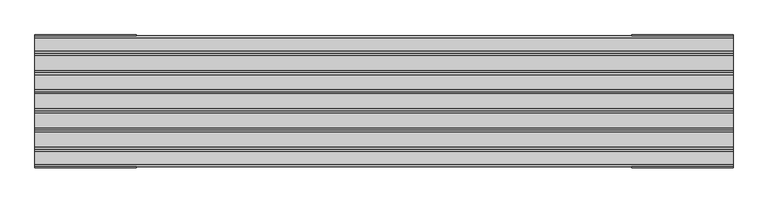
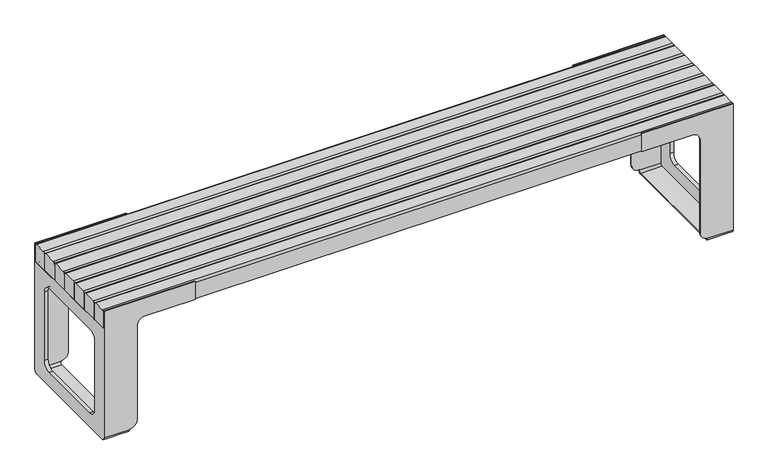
"""IFC4 building model written with IfcOpenShell, lengths in millimetres: furniture geometry, Roros Produkter - Nobel - Bench - 32682 : Roros Produkter - Nobel - Bench - 32682."""

from ifc_helpers import new_model, si_unit, point, frame, frame_2d, origin, place, context, project, spatial, polyline, circle_curve, trimmed, segment, composite_curve, outline, extrude, source, transform, mapped, element, save
from ifc_brep_helpers import plane_surface, cylinder_surface, revolved_surface, advanced_brep


def furniture_3f1389cd(model_context):
    return source(origin(), model_context, "Body", "SolidModel", [
        advanced_brep(
        [(920.0000032, 190.4999943, 10.0), (920.0000032, 180.4999943, 0.0), (920.0000032, -180.5000057, 0.0), (920.0000032, -190.5000057, 10.0), (920.0000032, -190.5000057, 11.2), (920.0000032, -187.5000057, 11.2), (920.0000032, -187.5000057, 9.6519473), (920.0000032, -180.5000057, 2.6519473), (920.0000032, 180.4999958, 2.6519473), (920.0000032, 187.4999958, 9.6519473), (920.0000032, 187.4999958, 11.2), (920.0000032, 190.4999943, 11.2), (920.0000032, 180.4999958, 372.0000043), (920.0000032, -180.5000057, 372.0000043), (920.0000032, -187.5000057, 365.0000043), (920.0000032, -187.4999958, 375.0000029), (920.0000032, 187.4999958, 375.0000029), (920.0000032, 187.4999958, 365.0000043), (1000.0000075, -190.5000057, 10.0), (1000.0000075, -180.5000057, 0.0), (1000.0000075, 180.4999943, 0.0), (1000.0000075, 190.4999943, 10.0), (1000.0000075, 190.5000057, 435.0000106), (1000.0000075, 187.4999958, 435.0000106), (1000.0000075, 187.4999958, 375.0000029), (1000.0000075, -187.4999958, 375.0000029), (1000.0000075, -187.4999958, 435.0000106), (1000.0000075, -190.5000057, 435.0000106), (1000.0000075, 112.5000317, 327.8461224), (1000.0000075, 137.5000317, 302.8461224), (1000.0000075, 137.5000317, 72.0000018), (1000.0000075, 112.5000317, 47.0000018), (1000.0000075, -112.4999704, 47.0000018), (1000.0000075, -137.4999704, 72.0000018), (1000.0000075, -137.4999704, 302.8461224), (1000.0000075, -112.4999704, 327.8461224), (895.000003, 190.4999943, 36.2000001), (895.000003, 190.4999943, 350.0000029), (870.000003, 190.4999943, 375.0000029), (710.0000125, 190.4999943, 375.0000029), (710.0000125, 190.4999943, 435.0000106), (710.0000125, -190.5000057, 435.0000106), (710.0000125, -190.5000057, 375.0000029), (870.000003, -190.5000057, 375.0000029), (895.000003, -190.5000057, 350.0000029), (895.000003, -190.5000057, 36.2000001), (895.000003, -187.4999958, 36.2000001), (895.000003, -187.4999958, 350.0000029), (870.000003, -187.4999958, 375.0000029), (710.0000125, -187.4999958, 375.0000029), (710.0000125, -187.4999958, 435.0000106), (895.000003, 187.4999958, 36.2000001), (895.000003, 187.4999958, 350.0000029), (870.000003, 187.4999958, 375.0000029), (710.0000125, 187.4999958, 375.0000029), (710.0000125, 187.4999958, 435.0000106), (989.0000078, 187.4999958, 365.0000043), (989.0000078, 187.4999958, 9.6519473), (989.0000078, 180.4999958, 2.6519473), (989.0000078, -180.5000057, 2.6519473), (989.0000078, -187.5000057, 9.6519473), (989.0000078, -187.5000057, 365.0000043), (989.0000078, -180.5000057, 372.0000043), (989.0000078, 180.4999958, 372.0000043), (989.0000078, 137.5000317, 302.8461224), (989.0000078, 112.5000317, 327.8461224), (989.0000078, -112.4999704, 327.8461224), (989.0000078, -137.4999704, 302.8461224), (989.0000078, -137.4999704, 72.0000018), (989.0000078, -112.4999704, 47.0000018), (989.0000078, 112.5000317, 47.0000018), (989.0000078, 137.5000317, 72.0000018)],
        [
            (0, 1, circle_curve(frame((920.0000032, 180.4999943, 10.0), z_axis=(-1.0, 0.0, 0.0), x_axis=(0.0, -1.0, 0.0)), 10.0)),
            (1, 2),
            (2, 3, circle_curve(frame((920.0000032, -180.5000057, 10.0), z_axis=(-1.0, 0.0, 0.0), x_axis=(0.0, -1.0, 0.0)), 10.0)),
            (3, 4),
            (4, 5),
            (5, 6),
            (6, 7, circle_curve(frame((920.0000032, -180.5000057, 9.6519473), z_axis=(1.0, 0.0, 0.0), x_axis=(0.0, -1.0, 0.0)), 7.0)),
            (7, 8),
            (8, 9, circle_curve(frame((920.0000032, 180.4999958, 9.6519473), z_axis=(1.0, 0.0, 0.0), x_axis=(0.0, -1.0, 0.0)), 7.0)),
            (9, 10),
            (10, 11),
            (11, 0),
            (12, 13),
            (13, 14, circle_curve(frame((920.0000032, -180.5000057, 365.0000043), z_axis=(1.0, 0.0, 0.0), x_axis=(0.0, -1.0, 0.0)), 7.0)),
            (14, 15),
            (15, 16),
            (16, 17),
            (17, 12, circle_curve(frame((920.0000032, 180.4999958, 365.0000043), z_axis=(1.0, 0.0, 0.0), x_axis=(0.0, -1.0, 0.0)), 7.0)),
            (18, 19, circle_curve(frame((1000.0000075, -180.5000057, 10.0), z_axis=(1.0, 0.0, 0.0), x_axis=(0.0, -1.0, 0.0)), 10.0)),
            (19, 20),
            (20, 21, circle_curve(frame((1000.0000075, 180.4999943, 10.0), z_axis=(1.0, 0.0, 0.0), x_axis=(0.0, -1.0, 0.0)), 10.0)),
            (21, 22),
            (22, 23),
            (23, 24),
            (24, 25),
            (25, 26),
            (26, 27),
            (27, 18),
            (28, 29, circle_curve(frame((1000.0000075, 112.5000317, 302.8461224), z_axis=(-1.0, 0.0, 0.0), x_axis=(0.0, -1.0, 0.0)), 25.0)),
            (29, 30),
            (30, 31, circle_curve(frame((1000.0000075, 112.5000317, 72.0000018), z_axis=(-1.0, 0.0, 0.0), x_axis=(0.0, -1.0, 0.0)), 25.0)),
            (31, 32),
            (32, 33, circle_curve(frame((1000.0000075, -112.4999704, 72.0000018), z_axis=(-1.0, 0.0, 0.0), x_axis=(0.0, -1.0, 0.0)), 25.0)),
            (33, 34),
            (34, 35, circle_curve(frame((1000.0000075, -112.4999704, 302.8461224), z_axis=(-1.0, 0.0, 0.0), x_axis=(0.0, -1.0, 0.0)), 25.0)),
            (35, 28),
            (21, 0),
            (11, 36, circle_curve(frame((920.0000032, 190.4999943, 36.2000001), z_axis=(0.0, 1.0, 0.0), x_axis=(-1.0, 0.0, 0.0)), 25.0000002)),
            (36, 37),
            (37, 38, circle_curve(frame((870.000003, 190.4999943, 350.0000029), z_axis=(0.0, -1.0, 0.0), x_axis=(-1.0, 0.0, 0.0)), 25.0)),
            (38, 39),
            (39, 40),
            (40, 22),
            (15, 25),
            (24, 16),
            (3, 18),
            (27, 41),
            (41, 42),
            (42, 43),
            (43, 44, circle_curve(frame((870.000003, -190.5000057, 350.0000029), z_axis=(0.0, 1.0, 0.0), x_axis=(-1.0, 0.0, 0.0)), 25.0)),
            (44, 45),
            (45, 4, circle_curve(frame((920.0000032, -190.5000057, 36.2000001), z_axis=(0.0, -1.0, 0.0), x_axis=(-1.0, 0.0, 0.0)), 25.0000002)),
            (2, 19),
            (1, 20),
            (45, 46),
            (46, 5, circle_curve(frame((920.0000032, -187.4999958, 36.2000001), z_axis=(0.0, -1.0, 0.0), x_axis=(-1.0, 0.0, 0.0)), 25.0000002)),
            (44, 47),
            (47, 46),
            (43, 48),
            (48, 47, circle_curve(frame((870.000003, -187.4999958, 350.0000029), z_axis=(0.0, 1.0, 0.0), x_axis=(-1.0, 0.0, 0.0)), 25.0)),
            (42, 49),
            (49, 48),
            (41, 50),
            (50, 49),
            (26, 50),
            (10, 51, circle_curve(frame((920.0000032, 187.4999958, 36.2000001), z_axis=(0.0, 1.0, 0.0), x_axis=(-1.0, 0.0, 0.0)), 25.0000002)),
            (51, 36),
            (51, 52),
            (52, 37),
            (52, 53, circle_curve(frame((870.000003, 187.4999958, 350.0000029), z_axis=(0.0, -1.0, 0.0), x_axis=(-1.0, 0.0, 0.0)), 25.0)),
            (53, 38),
            (53, 54),
            (54, 39),
            (54, 55),
            (55, 40),
            (55, 23),
            (56, 57),
            (57, 58, circle_curve(frame((989.0000078, 180.4999958, 9.6519473), z_axis=(-1.0, 0.0, 0.0), x_axis=(0.0, -1.0, 0.0)), 7.0)),
            (58, 59),
            (59, 60, circle_curve(frame((989.0000078, -180.5000057, 9.6519473), z_axis=(-1.0, 0.0, 0.0), x_axis=(0.0, -1.0, 0.0)), 7.0)),
            (60, 61),
            (61, 62, circle_curve(frame((989.0000078, -180.5000057, 365.0000043), z_axis=(-1.0, 0.0, 0.0), x_axis=(0.0, -1.0, 0.0)), 7.0)),
            (62, 63),
            (63, 56, circle_curve(frame((989.0000078, 180.4999958, 365.0000043), z_axis=(-1.0, 0.0, 0.0), x_axis=(0.0, -1.0, 0.0)), 7.0)),
            (64, 65, circle_curve(frame((989.0000078, 112.5000317, 302.8461224), z_axis=(1.0, 0.0, 0.0), x_axis=(0.0, -1.0, 0.0)), 25.0)),
            (65, 66),
            (66, 67, circle_curve(frame((989.0000078, -112.4999704, 302.8461224), z_axis=(1.0, 0.0, 0.0), x_axis=(0.0, -1.0, 0.0)), 25.0)),
            (67, 68),
            (68, 69, circle_curve(frame((989.0000078, -112.4999704, 72.0000018), z_axis=(1.0, 0.0, 0.0), x_axis=(0.0, -1.0, 0.0)), 25.0)),
            (69, 70),
            (70, 71, circle_curve(frame((989.0000078, 112.5000317, 72.0000018), z_axis=(1.0, 0.0, 0.0), x_axis=(0.0, -1.0, 0.0)), 25.0)),
            (71, 64),
            (62, 13),
            (12, 63),
            (60, 6),
            (14, 61),
            (58, 8),
            (7, 59),
            (56, 17),
            (9, 57),
            (64, 29),
            (28, 65),
            (35, 66),
            (34, 67),
            (33, 68),
            (32, 69),
            (31, 70),
            (30, 71),
        ],
        [
            plane_surface(frame((920.0000032, 170.4999943, 10.0), z_axis=(-1.0, 0.0, 0.0), x_axis=(0.0, 0.0, 1.0))),
            plane_surface(frame((1000.0000075, 170.4999943, 10.0), z_axis=(1.0, 0.0, 0.0), x_axis=(0.0, 0.0, -1.0))),
            plane_surface(frame((920.0000032, 190.4999943, 375.0000029), z_axis=(0.0, 1.0, 0.0), x_axis=(1.0, 0.0, 0.0))),
            plane_surface(frame((920.0000032, -190.5000057, 375.0000029), z_axis=(0.0, 0.0, 1.0), x_axis=(1.0, 0.0, 0.0))),
            plane_surface(frame((920.0000032, -190.5000057, 10.0), z_axis=(0.0, -1.0, 0.0), x_axis=(1.0, 0.0, 0.0))),
            cylinder_surface(frame((1000.0000075, -180.5000057, 10.0), z_axis=(-1.0, 0.0, 0.0), x_axis=(0.0, -1.0, 0.0)), 10.0),
            plane_surface(frame((920.0000032, 180.4999943, 0.0), z_axis=(0.0, 0.0, -1.0), x_axis=(1.0, 0.0, 0.0))),
            cylinder_surface(frame((1000.0000075, 180.4999943, 10.0), z_axis=(-1.0, 0.0, 0.0), x_axis=(0.0, -1.0, 0.0)), 10.0),
            cylinder_surface(frame((920.0000032, -187.4999958, 36.2000001), z_axis=(0.0, -1.0, 0.0), x_axis=(-1.0, 0.0, 0.0)), 25.0000002),
            plane_surface(frame((895.000003, -190.5000057, 350.0000029), z_axis=(-1.0, 0.0, 0.0), x_axis=(0.0, 1.0, 0.0))),
            revolved_surface(polyline([(845.000003, -187.4999958, 350.0000029), (845.000003, -190.5000057, 350.0000029)]), (870.000003, -187.4999958, 350.0000029), (0.0, 1.0, 0.0)),
            plane_surface(frame((710.0000125, -190.5000057, 375.0000029), z_axis=(0.0, 0.0, -1.0), x_axis=(0.0, 1.0, 0.0))),
            plane_surface(frame((710.0000125, -190.5000057, 435.0000106), z_axis=(-1.0, 0.0, 0.0), x_axis=(0.0, 1.0, 0.0))),
            plane_surface(frame((1000.0000075, -190.5000057, 435.0000106), z_axis=(0.0, 0.0, 1.0), x_axis=(0.0, 1.0, 0.0))),
            cylinder_surface(frame((920.0000032, 187.4999958, 36.2000001), z_axis=(0.0, 1.0, 0.0), x_axis=(-1.0, 0.0, 0.0)), 25.0000002),
            plane_surface(frame((895.000003, 190.5000057, 36.2000001), z_axis=(-1.0, 0.0, 0.0), x_axis=(0.0, -1.0, 0.0))),
            revolved_surface(polyline([(845.000003, 187.4999958, 350.0000029), (845.000003, 190.4999943, 350.0000029)]), (870.000003, 187.4999958, 350.0000029), (0.0, -1.0, 0.0)),
            plane_surface(frame((870.000003, 190.5000057, 375.0000029), z_axis=(0.0, 0.0, -1.0), x_axis=(0.0, -1.0, 0.0))),
            plane_surface(frame((710.0000125, 190.5000057, 375.0000029), z_axis=(-1.0, 0.0, 0.0), x_axis=(0.0, -1.0, 0.0))),
            plane_surface(frame((710.0000125, 190.5000057, 435.0000106), z_axis=(0.0, 0.0, 1.0), x_axis=(0.0, -1.0, 0.0))),
            plane_surface(frame((989.0000078, 187.4999958, 11.3137092), z_axis=(-1.0, 0.0, 0.0), x_axis=(0.0, 0.0, 1.0))),
            plane_surface(frame((870.0000119, -180.5000057, 372.0000043), z_axis=(0.0, 0.0, -1.0), x_axis=(1.0, 0.0, 0.0))),
            plane_surface(frame((870.0000119, -187.5000057, 9.6519473), z_axis=(0.0, 1.0, 0.0), x_axis=(1.0, 0.0, 0.0))),
            plane_surface(frame((870.0000119, 180.4999958, 2.6519473), z_axis=(0.0, 0.0, 1.0), x_axis=(1.0, 0.0, 0.0))),
            plane_surface(frame((870.0000119, 187.4999958, 365.0000043), z_axis=(0.0, -1.0, 0.0), x_axis=(1.0, 0.0, 0.0))),
            revolved_surface(polyline([(920.0000032, 173.4999958, 365.0000043), (989.0000078, 173.4999958, 365.0000043)]), (989.0000078, 180.4999958, 365.0000043), (-1.0, 0.0, 0.0)),
            revolved_surface(polyline([(920.0000032, -187.5000057, 365.0000043), (989.0000078, -187.5000057, 365.0000043)]), (989.0000078, -180.5000057, 365.0000043), (-1.0, 0.0, 0.0)),
            revolved_surface(polyline([(920.0000032, -187.5000057, 9.6519473), (989.0000078, -187.5000057, 9.6519473)]), (989.0000078, -180.5000057, 9.6519473), (-1.0, 0.0, 0.0)),
            revolved_surface(polyline([(920.0000032, 173.4999958, 9.6519473), (989.0000078, 173.4999958, 9.6519473)]), (989.0000078, 180.4999958, 9.6519473), (-1.0, 0.0, 0.0)),
            revolved_surface(polyline([(1000.0000075, 87.5000317, 302.8461224), (989.0000078, 87.5000317, 302.8461224)]), (-1034.837753, 112.5000317, 302.8461224), (1.0, 0.0, 0.0)),
            plane_surface(frame((1231.682456, 112.5000317, 327.8461224), z_axis=(0.0, 0.0, -1.0), x_axis=(-1.0, 0.0, 0.0))),
            revolved_surface(polyline([(1000.0000075, -137.4999704, 302.8461224), (989.0000078, -137.4999704, 302.8461224)]), (-1034.837753, -112.4999704, 302.8461224), (1.0, 0.0, 0.0)),
            plane_surface(frame((1231.682456, -137.4999704, 302.8461224), z_axis=(0.0, 1.0, 0.0), x_axis=(-1.0, 0.0, 0.0))),
            revolved_surface(polyline([(1000.0000075, -137.4999704, 72.0000018), (989.0000078, -137.4999704, 72.0000018)]), (-1034.837753, -112.4999704, 72.0000018), (1.0, 0.0, 0.0)),
            plane_surface(frame((1231.682456, -112.4999704, 47.0000018), z_axis=(0.0, 0.0, 1.0), x_axis=(-1.0, 0.0, 0.0))),
            revolved_surface(polyline([(1000.0000075, 87.5000317, 72.0000018), (989.0000078, 87.5000317, 72.0000018)]), (-1034.837753, 112.5000317, 72.0000018), (1.0, 0.0, 0.0)),
            plane_surface(frame((1231.682456, 137.5000317, 72.0000018), z_axis=(0.0, -1.0, 0.0), x_axis=(-1.0, 0.0, 0.0))),
        ],
        [
            (0, [[1, 2, 3, 4, 5, 6, 7, 8, 9, 10, 11, 12]]),
            (0, [[13, 14, 15, 16, 17, 18]]),
            (1, [[19, 20, 21, 22, 23, 24, 25, 26, 27, 28], [29, 30, 31, 32, 33, 34, 35, 36]]),
            (2, [[37, -12, 38, 39, 40, 41, 42, 43, -22]]),
            (3, [[44, -25, 45, -16]]),
            (4, [[46, -28, 47, 48, 49, 50, 51, 52, -4]]),
            (5, [[-3, 53, -19, -46]]),
            (6, [[-2, 54, -20, -53]]),
            (7, [[-1, -37, -21, -54]]),
            (8, [[-52, 55, 56, -5]]),
            (9, [[-51, 57, 58, -55]]),
            (10, [[-50, 59, 60, -57]]),
            (11, [[-49, 61, 62, -59]]),
            (12, [[-48, 63, 64, -61]]),
            (13, [[-47, -27, 65, -63]]),
            (14, [[-38, -11, 66, 67]]),
            (15, [[-39, -67, 68, 69]]),
            (16, [[-40, -69, 70, 71]]),
            (17, [[-41, -71, 72, 73]]),
            (18, [[-42, -73, 74, 75]]),
            (19, [[-43, -75, 76, -23]]),
            (20, [[77, 78, 79, 80, 81, 82, 83, 84], [85, 86, 87, 88, 89, 90, 91, 92]]),
            (21, [[-83, 93, -13, 94]]),
            (22, [[-81, 95, -6, -56, -58, -60, -62, -64, -65, -26, -44, -15, 96]]),
            (23, [[-79, 97, -8, 98]]),
            (24, [[-77, 99, -17, -45, -24, -76, -74, -72, -70, -68, -66, -10, 100]]),
            (25, [[-84, -94, -18, -99]]),
            (26, [[-82, -96, -14, -93]]),
            (27, [[-80, -98, -7, -95]]),
            (28, [[-78, -100, -9, -97]]),
            (29, [[101, -29, 102, -85]]),
            (30, [[-102, -36, 103, -86]]),
            (31, [[-103, -35, 104, -87]]),
            (32, [[-104, -34, 105, -88]]),
            (33, [[-105, -33, 106, -89]]),
            (34, [[-106, -32, 107, -90]]),
            (35, [[-107, -31, 108, -91]]),
            (36, [[-101, -92, -108, -30]]),
        ],
    ),
        advanced_brep(
        [(-920.0000032, -190.5000057, 10.0), (-920.0000032, -180.5000057, 0.0), (-920.0000032, 180.4999943, 0.0), (-920.0000032, 190.4999943, 10.0), (-920.0000032, 190.4999943, 11.2), (-920.0000032, 187.4999958, 11.2), (-920.0000032, 187.4999958, 9.6519473), (-920.0000032, 180.4999958, 2.6519473), (-920.0000032, -180.5000057, 2.6519473), (-920.0000032, -187.5000057, 9.6519473), (-920.0000032, -187.5000057, 11.2), (-920.0000032, -190.5000057, 11.2), (-920.0000032, -180.5000057, 372.0000043), (-920.0000032, 180.4999958, 372.0000043), (-920.0000032, 187.4999958, 365.0000043), (-920.0000032, 187.4999958, 375.0000029), (-920.0000032, -187.4999958, 375.0000029), (-920.0000032, -187.4999958, 365.0000043), (-1000.0000075, 190.4999943, 10.0), (-1000.0000075, 180.4999943, 0.0), (-1000.0000075, -180.5000057, 0.0), (-1000.0000075, -190.5000057, 10.0), (-1000.0000075, -190.5000057, 435.0000106), (-1000.0000075, -187.4999958, 435.0000106), (-1000.0000075, -187.4999958, 375.0000029), (-1000.0000075, 187.4999958, 375.0000029), (-1000.0000075, 187.4999958, 435.0000106), (-1000.0000075, 190.5000057, 435.0000106), (-1000.0000075, 137.5000317, 302.8461224), (-1000.0000075, 112.5000317, 327.8461224), (-1000.0000075, -112.4999704, 327.8461224), (-1000.0000075, -137.4999704, 302.8461224), (-1000.0000075, -137.4999704, 72.0000018), (-1000.0000075, -112.4999704, 47.0000018), (-1000.0000075, 112.5000317, 47.0000018), (-1000.0000075, 137.5000317, 72.0000018), (-710.0000125, 190.4999943, 435.0000106), (-710.0000125, 190.4999943, 375.0000029), (-870.000003, 190.4999943, 375.0000029), (-895.000003, 190.4999943, 350.0000029), (-895.000003, 190.4999943, 36.2000001), (-895.000003, -190.5000057, 36.2000001), (-895.000003, -190.5000057, 350.0000029), (-870.000003, -190.5000057, 375.0000029), (-710.0000125, -190.5000057, 375.0000029), (-710.0000125, -190.5000057, 435.0000106), (-895.000003, -187.4999958, 36.2000001), (-895.000003, -187.4999958, 350.0000029), (-870.000003, -187.4999958, 375.0000029), (-710.0000125, -187.4999958, 375.0000029), (-710.0000125, -187.4999958, 435.0000106), (-895.000003, 187.4999958, 36.2000001), (-895.000003, 187.4999958, 350.0000029), (-870.000003, 187.4999958, 375.0000029), (-710.0000125, 187.4999958, 375.0000029), (-710.0000125, 187.4999958, 435.0000106), (-989.0000078, 187.4999958, 365.0000043), (-989.0000078, 180.4999958, 372.0000043), (-989.0000078, -180.5000057, 372.0000043), (-989.0000078, -187.5000057, 365.0000043), (-989.0000078, -187.5000057, 9.6519473), (-989.0000078, -180.5000057, 2.6519473), (-989.0000078, 180.4999958, 2.6519473), (-989.0000078, 187.4999958, 9.6519473), (-989.0000078, 112.5000317, 327.8461224), (-989.0000078, 137.5000317, 302.8461224), (-989.0000078, 137.5000317, 72.0000018), (-989.0000078, 112.5000317, 47.0000018), (-989.0000078, -112.4999704, 47.0000018), (-989.0000078, -137.4999704, 72.0000018), (-989.0000078, -137.4999704, 302.8461224), (-989.0000078, -112.4999704, 327.8461224)],
        [
            (0, 1, circle_curve(frame((-920.0000032, -180.5000057, 10.0), z_axis=(1.0, 0.0, 0.0), x_axis=(0.0, -1.0, 0.0)), 10.0)),
            (1, 2),
            (2, 3, circle_curve(frame((-920.0000032, 180.4999943, 10.0), z_axis=(1.0, 0.0, 0.0), x_axis=(0.0, -1.0, 0.0)), 10.0)),
            (3, 4),
            (4, 5),
            (5, 6),
            (6, 7, circle_curve(frame((-920.0000032, 180.4999958, 9.6519473), z_axis=(-1.0, 0.0, 0.0), x_axis=(0.0, -1.0, 0.0)), 7.0)),
            (7, 8),
            (8, 9, circle_curve(frame((-920.0000032, -180.5000057, 9.6519473), z_axis=(-1.0, 0.0, 0.0), x_axis=(0.0, -1.0, 0.0)), 7.0)),
            (9, 10),
            (10, 11),
            (11, 0),
            (12, 13),
            (13, 14, circle_curve(frame((-920.0000032, 180.4999958, 365.0000043), z_axis=(-1.0, 0.0, 0.0), x_axis=(0.0, -1.0, 0.0)), 7.0)),
            (14, 15),
            (15, 16),
            (16, 17),
            (17, 12, circle_curve(frame((-920.0000032, -180.5000057, 365.0000043), z_axis=(-1.0, 0.0, 0.0), x_axis=(0.0, -1.0, 0.0)), 7.0)),
            (18, 19, circle_curve(frame((-1000.0000075, 180.4999943, 10.0), z_axis=(-1.0, 0.0, 0.0), x_axis=(0.0, -1.0, 0.0)), 10.0)),
            (19, 20),
            (20, 21, circle_curve(frame((-1000.0000075, -180.5000057, 10.0), z_axis=(-1.0, 0.0, 0.0), x_axis=(0.0, -1.0, 0.0)), 10.0)),
            (21, 22),
            (22, 23),
            (23, 24),
            (24, 25),
            (25, 26),
            (26, 27),
            (27, 18),
            (28, 29, circle_curve(frame((-1000.0000075, 112.5000317, 302.8461224), z_axis=(1.0, 0.0, 0.0), x_axis=(0.0, -1.0, 0.0)), 25.0)),
            (29, 30),
            (30, 31, circle_curve(frame((-1000.0000075, -112.4999704, 302.8461224), z_axis=(1.0, 0.0, 0.0), x_axis=(0.0, -1.0, 0.0)), 25.0)),
            (31, 32),
            (32, 33, circle_curve(frame((-1000.0000075, -112.4999704, 72.0000018), z_axis=(1.0, 0.0, 0.0), x_axis=(0.0, -1.0, 0.0)), 25.0)),
            (33, 34),
            (34, 35, circle_curve(frame((-1000.0000075, 112.5000317, 72.0000018), z_axis=(1.0, 0.0, 0.0), x_axis=(0.0, -1.0, 0.0)), 25.0)),
            (35, 28),
            (27, 36),
            (36, 37),
            (37, 38),
            (38, 39, circle_curve(frame((-870.000003, 190.4999943, 350.0000029), z_axis=(0.0, -1.0, 0.0), x_axis=(1.0, 0.0, 0.0)), 25.0)),
            (39, 40),
            (40, 4, circle_curve(frame((-920.0000032, 190.4999943, 36.2000001), z_axis=(0.0, 1.0, 0.0), x_axis=(1.0, 0.0, 0.0)), 25.0000002)),
            (3, 18),
            (24, 16),
            (15, 25),
            (21, 0),
            (11, 41, circle_curve(frame((-920.0000032, -190.5000057, 36.2000001), z_axis=(0.0, -1.0, 0.0), x_axis=(1.0, 0.0, 0.0)), 25.0000002)),
            (41, 42),
            (42, 43, circle_curve(frame((-870.000003, -190.5000057, 350.0000029), z_axis=(0.0, 1.0, 0.0), x_axis=(1.0, 0.0, 0.0)), 25.0)),
            (43, 44),
            (44, 45),
            (45, 22),
            (20, 1),
            (19, 2),
            (10, 46, circle_curve(frame((-920.0000032, -187.4999958, 36.2000001), z_axis=(0.0, -1.0, 0.0), x_axis=(1.0, 0.0, 0.0)), 25.0000002)),
            (46, 41),
            (46, 47),
            (47, 42),
            (47, 48, circle_curve(frame((-870.000003, -187.4999958, 350.0000029), z_axis=(0.0, 1.0, 0.0), x_axis=(1.0, 0.0, 0.0)), 25.0)),
            (48, 43),
            (48, 49),
            (49, 44),
            (49, 50),
            (50, 45),
            (50, 23),
            (40, 51),
            (51, 5, circle_curve(frame((-920.0000032, 187.4999958, 36.2000001), z_axis=(0.0, 1.0, 0.0), x_axis=(1.0, 0.0, 0.0)), 25.0000002)),
            (39, 52),
            (52, 51),
            (38, 53),
            (53, 52, circle_curve(frame((-870.000003, 187.4999958, 350.0000029), z_axis=(0.0, -1.0, 0.0), x_axis=(1.0, 0.0, 0.0)), 25.0)),
            (37, 54),
            (54, 53),
            (36, 55),
            (55, 54),
            (26, 55),
            (56, 57, circle_curve(frame((-989.0000078, 180.4999958, 365.0000043), z_axis=(1.0, 0.0, 0.0), x_axis=(0.0, -1.0, 0.0)), 7.0)),
            (57, 58),
            (58, 59, circle_curve(frame((-989.0000078, -180.5000057, 365.0000043), z_axis=(1.0, 0.0, 0.0), x_axis=(0.0, -1.0, 0.0)), 7.0)),
            (59, 60),
            (60, 61, circle_curve(frame((-989.0000078, -180.5000057, 9.6519473), z_axis=(1.0, 0.0, 0.0), x_axis=(0.0, -1.0, 0.0)), 7.0)),
            (61, 62),
            (62, 63, circle_curve(frame((-989.0000078, 180.4999958, 9.6519473), z_axis=(1.0, 0.0, 0.0), x_axis=(0.0, -1.0, 0.0)), 7.0)),
            (63, 56),
            (64, 65, circle_curve(frame((-989.0000078, 112.5000317, 302.8461224), z_axis=(-1.0, 0.0, 0.0), x_axis=(0.0, -1.0, 0.0)), 25.0)),
            (65, 66),
            (66, 67, circle_curve(frame((-989.0000078, 112.5000317, 72.0000018), z_axis=(-1.0, 0.0, 0.0), x_axis=(0.0, -1.0, 0.0)), 25.0)),
            (67, 68),
            (68, 69, circle_curve(frame((-989.0000078, -112.4999704, 72.0000018), z_axis=(-1.0, 0.0, 0.0), x_axis=(0.0, -1.0, 0.0)), 25.0)),
            (69, 70),
            (70, 71, circle_curve(frame((-989.0000078, -112.4999704, 302.8461224), z_axis=(-1.0, 0.0, 0.0), x_axis=(0.0, -1.0, 0.0)), 25.0)),
            (71, 64),
            (57, 13),
            (12, 58),
            (59, 17),
            (9, 60),
            (61, 8),
            (7, 62),
            (63, 6),
            (14, 56),
            (28, 65),
            (64, 29),
            (71, 30),
            (70, 31),
            (69, 32),
            (68, 33),
            (67, 34),
            (66, 35),
        ],
        [
            plane_surface(frame((-920.0000032, 190.4999943, 375.0000029), z_axis=(1.0, 0.0, 0.0), x_axis=(0.0, 0.0, 1.0))),
            plane_surface(frame((-1000.0000075, 190.4999943, 375.0000029), z_axis=(-1.0, 0.0, 0.0), x_axis=(0.0, 0.0, -1.0))),
            plane_surface(frame((-920.0000032, 190.4999943, 10.0), z_axis=(0.0, 1.0, 0.0), x_axis=(-1.0, 0.0, 0.0))),
            plane_surface(frame((-920.0000032, 190.4999943, 375.0000029), z_axis=(0.0, 0.0, 1.0), x_axis=(-1.0, 0.0, 0.0))),
            plane_surface(frame((-920.0000032, -190.5000057, 375.0000029), z_axis=(0.0, -1.0, 0.0), x_axis=(-1.0, 0.0, 0.0))),
            cylinder_surface(frame((-1000.0000075, -180.5000057, 10.0), z_axis=(1.0, 0.0, 0.0), x_axis=(0.0, -1.0, 0.0)), 10.0),
            plane_surface(frame((-920.0000032, -180.5000057, 0.0), z_axis=(0.0, 0.0, -1.0), x_axis=(-1.0, 0.0, 0.0))),
            cylinder_surface(frame((-1000.0000075, 180.4999943, 10.0), z_axis=(1.0, 0.0, 0.0), x_axis=(0.0, -1.0, 0.0)), 10.0),
            cylinder_surface(frame((-920.0000032, -187.4999958, 36.2000001), z_axis=(0.0, -1.0, 0.0), x_axis=(1.0, 0.0, 0.0)), 25.0000002),
            plane_surface(frame((-895.000003, -190.5000057, 36.2000001), z_axis=(1.0, 0.0, 0.0), x_axis=(0.0, 1.0, 0.0))),
            revolved_surface(polyline([(-845.000003, -187.4999958, 350.0000029), (-845.000003, -190.5000057, 350.0000029)]), (-870.000003, -187.4999958, 350.0000029), (0.0, 1.0, 0.0)),
            plane_surface(frame((-870.000003, -190.5000057, 375.0000029), z_axis=(0.0, 0.0, -1.0), x_axis=(0.0, 1.0, 0.0))),
            plane_surface(frame((-710.0000125, -190.5000057, 375.0000029), z_axis=(1.0, 0.0, 0.0), x_axis=(0.0, 1.0, 0.0))),
            plane_surface(frame((-710.0000125, -190.5000057, 435.0000106), z_axis=(0.0, 0.0, 1.0), x_axis=(0.0, 1.0, 0.0))),
            cylinder_surface(frame((-920.0000032, 187.4999958, 36.2000001), z_axis=(0.0, 1.0, 0.0), x_axis=(1.0, 0.0, 0.0)), 25.0000002),
            plane_surface(frame((-895.000003, 190.5000057, 350.0000029), z_axis=(1.0, 0.0, 0.0), x_axis=(0.0, -1.0, 0.0))),
            revolved_surface(polyline([(-845.000003, 187.4999958, 350.0000029), (-845.000003, 190.4999943, 350.0000029)]), (-870.000003, 187.4999958, 350.0000029), (0.0, -1.0, 0.0)),
            plane_surface(frame((-710.0000125, 190.5000057, 375.0000029), z_axis=(0.0, 0.0, -1.0), x_axis=(0.0, -1.0, 0.0))),
            plane_surface(frame((-710.0000125, 190.5000057, 435.0000106), z_axis=(1.0, 0.0, 0.0), x_axis=(0.0, -1.0, 0.0))),
            plane_surface(frame((-1000.0000075, 190.5000057, 435.0000106), z_axis=(0.0, 0.0, 1.0), x_axis=(0.0, -1.0, 0.0))),
            plane_surface(frame((-989.0000078, 173.4999958, 365.0000043), z_axis=(1.0, 0.0, 0.0), x_axis=(0.0, 0.0, 1.0))),
            plane_surface(frame((-870.0000119, 180.4999958, 372.0000043), z_axis=(0.0, 0.0, -1.0), x_axis=(-1.0, 0.0, 0.0))),
            plane_surface(frame((-870.0000119, -187.5000057, 365.0000043), z_axis=(0.0, 1.0, 0.0), x_axis=(-1.0, 0.0, 0.0))),
            plane_surface(frame((-870.0000119, -180.5000057, 2.6519473), z_axis=(0.0, 0.0, 1.0), x_axis=(-1.0, 0.0, 0.0))),
            plane_surface(frame((-870.0000119, 187.4999958, 9.6519473), z_axis=(0.0, -1.0, 0.0), x_axis=(-1.0, 0.0, 0.0))),
            revolved_surface(polyline([(-920.0000032, 173.4999958, 365.0000043), (-989.0000078, 173.4999958, 365.0000043)]), (-989.0000078, 180.4999958, 365.0000043), (1.0, 0.0, 0.0)),
            revolved_surface(polyline([(-920.0000032, -187.5000057, 365.0000043), (-989.0000078, -187.5000057, 365.0000043)]), (-989.0000078, -180.5000057, 365.0000043), (1.0, 0.0, 0.0)),
            revolved_surface(polyline([(-920.0000032, -187.5000057, 9.6519473), (-989.0000078, -187.5000057, 9.6519473)]), (-989.0000078, -180.5000057, 9.6519473), (1.0, 0.0, 0.0)),
            revolved_surface(polyline([(-920.0000032, 173.4999958, 9.6519473), (-989.0000078, 173.4999958, 9.6519473)]), (-989.0000078, 180.4999958, 9.6519473), (1.0, 0.0, 0.0)),
            revolved_surface(polyline([(-989.0000078, 87.5000317, 302.8461224), (-1000.0000075, 87.5000317, 302.8461224)]), (-1034.837753, 112.5000317, 302.8461224), (1.0, 0.0, 0.0)),
            plane_surface(frame((1231.682456, 112.5000317, 327.8461224), z_axis=(0.0, 0.0, -1.0), x_axis=(-1.0, 0.0, 0.0))),
            revolved_surface(polyline([(-989.0000078, -137.4999704, 302.8461224), (-1000.0000075, -137.4999704, 302.8461224)]), (-1034.837753, -112.4999704, 302.8461224), (1.0, 0.0, 0.0)),
            plane_surface(frame((1231.682456, -137.4999704, 302.8461224), z_axis=(0.0, 1.0, 0.0), x_axis=(-1.0, 0.0, 0.0))),
            revolved_surface(polyline([(-989.0000078, -137.4999704, 72.0000018), (-1000.0000075, -137.4999704, 72.0000018)]), (-1034.837753, -112.4999704, 72.0000018), (1.0, 0.0, 0.0)),
            plane_surface(frame((1231.682456, -112.4999704, 47.0000018), z_axis=(0.0, 0.0, 1.0), x_axis=(-1.0, 0.0, 0.0))),
            revolved_surface(polyline([(-989.0000078, 87.5000317, 72.0000018), (-1000.0000075, 87.5000317, 72.0000018)]), (-1034.837753, 112.5000317, 72.0000018), (1.0, 0.0, 0.0)),
            plane_surface(frame((1231.682456, 137.5000317, 72.0000018), z_axis=(0.0, -1.0, 0.0), x_axis=(-1.0, 0.0, 0.0))),
        ],
        [
            (0, [[1, 2, 3, 4, 5, 6, 7, 8, 9, 10, 11, 12]]),
            (0, [[13, 14, 15, 16, 17, 18]]),
            (1, [[19, 20, 21, 22, 23, 24, 25, 26, 27, 28], [29, 30, 31, 32, 33, 34, 35, 36]]),
            (2, [[-28, 37, 38, 39, 40, 41, 42, -4, 43]]),
            (3, [[44, -16, 45, -25]]),
            (4, [[46, -12, 47, 48, 49, 50, 51, 52, -22]]),
            (5, [[-1, -46, -21, 53]]),
            (6, [[-2, -53, -20, 54]]),
            (7, [[-3, -54, -19, -43]]),
            (8, [[-47, -11, 55, 56]]),
            (9, [[-48, -56, 57, 58]]),
            (10, [[-49, -58, 59, 60]]),
            (11, [[-50, -60, 61, 62]]),
            (12, [[-51, -62, 63, 64]]),
            (13, [[-52, -64, 65, -23]]),
            (14, [[-42, 66, 67, -5]]),
            (15, [[-41, 68, 69, -66]]),
            (16, [[-40, 70, 71, -68]]),
            (17, [[-39, 72, 73, -70]]),
            (18, [[-38, 74, 75, -72]]),
            (19, [[-37, -27, 76, -74]]),
            (20, [[77, 78, 79, 80, 81, 82, 83, 84], [85, 86, 87, 88, 89, 90, 91, 92]]),
            (21, [[-78, 93, -13, 94]]),
            (22, [[-80, 95, -17, -44, -24, -65, -63, -61, -59, -57, -55, -10, 96]]),
            (23, [[-82, 97, -8, 98]]),
            (24, [[-84, 99, -6, -67, -69, -71, -73, -75, -76, -26, -45, -15, 100]]),
            (25, [[-77, -100, -14, -93]]),
            (26, [[-79, -94, -18, -95]]),
            (27, [[-81, -96, -9, -97]]),
            (28, [[-83, -98, -7, -99]]),
            (29, [[101, -85, 102, -29]]),
            (30, [[-102, -92, 103, -30]]),
            (31, [[-103, -91, 104, -31]]),
            (32, [[-104, -90, 105, -32]]),
            (33, [[-105, -89, 106, -33]]),
            (34, [[-106, -88, 107, -34]]),
            (35, [[-107, -87, 108, -35]]),
            (36, [[-101, -36, -108, -86]]),
        ],
    ),
        extrude(outline(composite_curve([segment(trimmed(circle_curve(frame_2d((88.4999913, 429.0000106)), 6.0), [point((82.4999913, 429.0000106))], [point((88.4999913, 435.0000106))], False, "CARTESIAN"), True, "CONTINUOUS"), segment(polyline([(88.4999913, 435.0000106), (131.4849653, 435.0000106)]), True, "CONTINUOUS"), segment(trimmed(circle_curve(frame_2d((131.4849653, 428.9849806)), 6.01503), [point((131.4849653, 435.0000106))], [point((137.4999954, 428.9849806))], False, "CARTESIAN"), True, "CONTINUOUS"), segment(polyline([(137.4999954, 428.9849806), (137.4999954, 375.0000029), (82.4999913, 375.0000029), (82.4999913, 429.0000106)]), True, "CONTINUOUS")], self_intersect=False)), frame((-1000.0000075, 0.0, 0.0), z_axis=(1.0, 0.0, 0.0), x_axis=(0.0, 1.0, 0.0)), (0.0, 0.0, 1.0), 2000.0000153),
        extrude(outline(composite_curve([segment(trimmed(circle_curve(frame_2d((-21.4999963, 429.0000106)), 6.0), [point((-27.4999963, 429.0000106))], [point((-21.4999963, 435.0000106))], False, "CARTESIAN"), True, "CONTINUOUS"), segment(polyline([(-21.4999963, 435.0000106), (21.4849663, 435.0000106)]), True, "CONTINUOUS"), segment(trimmed(circle_curve(frame_2d((21.4849663, 428.9849806)), 6.01503), [point((21.4849663, 435.0000106))], [point((27.4999963, 428.9849806))], False, "CARTESIAN"), True, "CONTINUOUS"), segment(polyline([(27.4999963, 428.9849806), (27.4999963, 375.0000029), (-27.4999963, 375.0000029), (-27.4999963, 429.0000106)]), True, "CONTINUOUS")], self_intersect=False)), frame((-1000.0000075, 0.0, 0.0), z_axis=(1.0, 0.0, 0.0), x_axis=(0.0, 1.0, 0.0)), (0.0, 0.0, 1.0), 2000.0000153),
        extrude(outline(composite_curve([segment(trimmed(circle_curve(frame_2d((-131.4999954, 429.0000106)), 6.0), [point((-137.4999954, 429.0000106))], [point((-131.4999954, 435.0000106))], False, "CARTESIAN"), True, "CONTINUOUS"), segment(polyline([(-131.4999954, 435.0000106), (-88.5150214, 435.0000106)]), True, "CONTINUOUS"), segment(trimmed(circle_curve(frame_2d((-88.5150214, 428.9849806)), 6.01503), [point((-88.5150214, 435.0000106))], [point((-82.4999913, 428.9849806))], False, "CARTESIAN"), True, "CONTINUOUS"), segment(polyline([(-82.4999913, 428.9849806), (-82.4999913, 375.0000029), (-137.4999954, 375.0000029), (-137.4999954, 429.0000106)]), True, "CONTINUOUS")], self_intersect=False)), frame((-1000.0000075, 0.0, 0.0), z_axis=(1.0, 0.0, 0.0), x_axis=(0.0, 1.0, 0.0)), (0.0, 0.0, 1.0), 2000.0000153),
        extrude(outline(composite_curve([segment(trimmed(circle_curve(frame_2d((143.4999954, 429.0000106)), 6.0), [point((137.4999954, 429.0000106))], [point((143.4999954, 435.0000106))], False, "CARTESIAN"), True, "CONTINUOUS"), segment(polyline([(143.4999954, 435.0000106), (181.4849657, 435.0000106)]), True, "CONTINUOUS"), segment(trimmed(circle_curve(frame_2d((181.4849657, 428.9849806)), 6.01503), [point((181.4849657, 435.0000106))], [point((187.4999958, 428.9849806))], False, "CARTESIAN"), True, "CONTINUOUS"), segment(polyline([(187.4999958, 428.9849806), (187.4999958, 375.0000029), (137.4999954, 375.0000029), (137.4999954, 429.0000106)]), True, "CONTINUOUS")], self_intersect=False)), frame((-1000.0000075, 0.0, 0.0), z_axis=(1.0, 0.0, 0.0), x_axis=(0.0, 1.0, 0.0)), (0.0, 0.0, 1.0), 2000.0000153),
        extrude(outline(composite_curve([segment(trimmed(circle_curve(frame_2d((76.4999913, 429.0000106)), 6.0), [point((76.4999913, 435.0000106))], [point((82.4999913, 429.0000106))], False, "CARTESIAN"), True, "CONTINUOUS"), segment(polyline([(82.4999913, 429.0000106), (82.4999913, 375.0000029), (27.4999963, 375.0000029), (27.4999963, 429.0000106)]), True, "CONTINUOUS"), segment(trimmed(circle_curve(frame_2d((33.4999963, 429.0000106)), 6.0), [point((27.4999963, 429.0000106))], [point((33.4999963, 435.0000106))], False, "CARTESIAN"), True, "CONTINUOUS"), segment(polyline([(33.4999963, 435.0000106), (76.4999913, 435.0000106)]), True, "CONTINUOUS")], self_intersect=False)), frame((-1000.0000075, 0.0, 0.0), z_axis=(1.0, 0.0, 0.0), x_axis=(0.0, 1.0, 0.0)), (0.0, 0.0, 1.0), 2000.0000153),
        extrude(outline(composite_curve([segment(polyline([(-27.4999963, 429.0000106), (-27.4999963, 375.0000029), (-82.4999913, 375.0000029), (-82.4999913, 429.0000106)]), True, "CONTINUOUS"), segment(trimmed(circle_curve(frame_2d((-76.4999913, 429.0000106)), 6.0), [point((-82.4999913, 429.0000106))], [point((-76.4999913, 435.0000106))], False, "CARTESIAN"), True, "CONTINUOUS"), segment(polyline([(-76.4999913, 435.0000106), (-33.4999963, 435.0000106)]), True, "CONTINUOUS"), segment(trimmed(circle_curve(frame_2d((-33.4999963, 429.0000106)), 6.0), [point((-33.4999963, 435.0000106))], [point((-27.4999963, 429.0000106))], False, "CARTESIAN"), True, "CONTINUOUS")], self_intersect=False)), frame((-1000.0000075, 0.0, 0.0), z_axis=(1.0, 0.0, 0.0), x_axis=(0.0, 1.0, 0.0)), (0.0, 0.0, 1.0), 2000.0000153),
        extrude(outline(composite_curve([segment(polyline([(-137.4999954, 429.0000106), (-137.4999954, 375.0000029), (-187.4999958, 375.0000029), (-187.4999958, 429.0000106)]), True, "CONTINUOUS"), segment(trimmed(circle_curve(frame_2d((-181.4999958, 429.0000106)), 6.0), [point((-187.4999958, 429.0000106))], [point((-181.4999958, 435.0000106))], False, "CARTESIAN"), True, "CONTINUOUS"), segment(polyline([(-181.4999958, 435.0000106), (-143.4999954, 435.0000106)]), True, "CONTINUOUS"), segment(trimmed(circle_curve(frame_2d((-143.4999954, 429.0000106)), 6.0), [point((-143.4999954, 435.0000106))], [point((-137.4999954, 429.0000106))], False, "CARTESIAN"), True, "CONTINUOUS")], self_intersect=False)), frame((-1000.0000075, 0.0, 0.0), z_axis=(1.0, 0.0, 0.0), x_axis=(0.0, 1.0, 0.0)), (0.0, 0.0, 1.0), 2000.0000153),
    ])


if __name__ == "__main__":
    model = new_model("IFC4")
    model_context = context("Model", 3, world=origin())
    ifc_project = project(units=[si_unit("LENGTHUNIT", "METRE", prefix="MILLI")], contexts=[model_context])
    site = spatial("IfcSite", under=ifc_project)
    building = spatial("IfcBuilding", under=site)
    placement = place(None, origin())
    furniture_shape = furniture_3f1389cd(model_context)
    element("IfcFurniture", 1, ObjectType="Roros Produkter - Nobel - Bench - 32682 : Roros Produkter - Nobel - Bench - 32682", at=placement, inside=building, context=model_context, shape_type="MappedRepresentation", body=[
        mapped(furniture_shape, transform((0.0, 0.0, 0.0), x_axis=(1.0, 0.0, 0.0), y_axis=(0.0, 1.0, 0.0), z_axis=(0.0, 0.0, 1.0))),
    ])
    save(model, "model.ifc")
